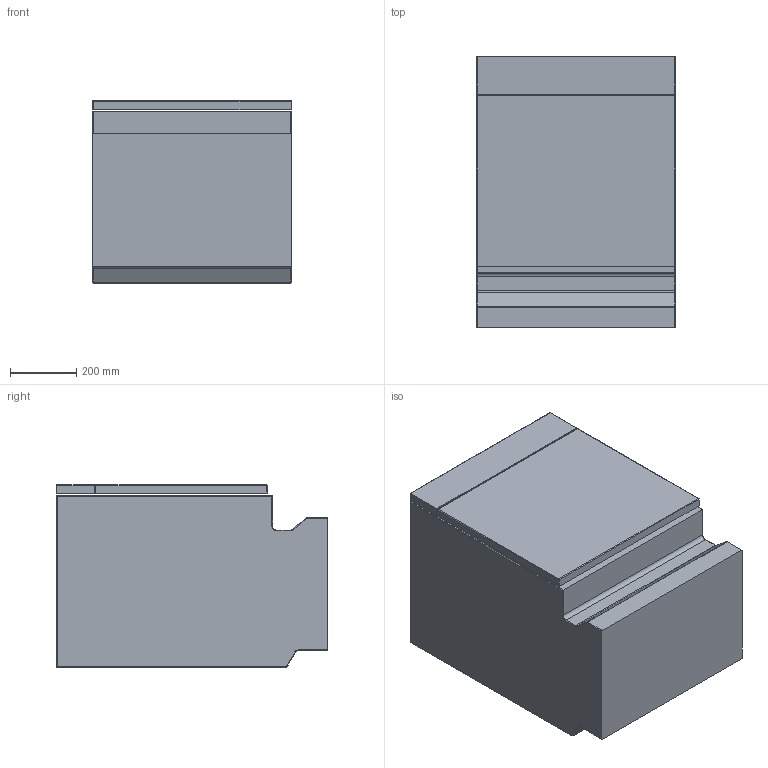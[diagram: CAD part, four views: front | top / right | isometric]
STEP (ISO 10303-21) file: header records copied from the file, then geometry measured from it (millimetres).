
FILE_DESCRIPTION (( 'STEP AP214' ), '1' );
FILE_NAME ('ST60 h820.STEP', '2017-12-04T09:57:32', ( '' ), ( '' ), 'SwSTEP 2.0', 'SolidWorks 2016', '' );
FILE_SCHEMA (( 'AUTOMOTIVE_DESIGN' ));
Length unit declared in the file: millimetre
Products named in the file (1): ST60 h820
Bounding box: 598 x 818.8 x 550 mm (x, y, z)
Volume: 251945890.3 mm3; surface area: 3296758.7 mm2
Topology: 7 solids, 7 shells, 323 faces, 825 edges, 518 vertices
Faces by surface type: plane 173, cylinder 106, bspline 21, sphere 13, torus 10
Entity records: 9754 total; most frequent: CARTESIAN_POINT 1963, ORIENTED_EDGE 1624, DIRECTION 1593, EDGE_CURVE 812, VECTOR 537, LINE 537, AXIS2_PLACEMENT_3D 528, VERTEX_POINT 518
